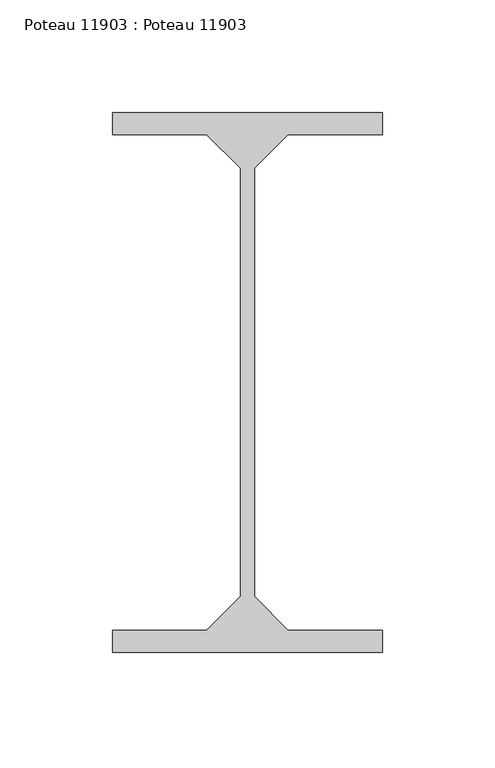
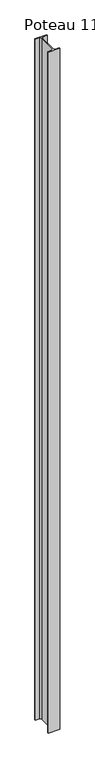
"""IFC4 building model written with IfcOpenShell, lengths in millimetres: beam geometry, Poteau 11903 : Poteau 11903."""

from ifc_helpers import new_model, si_unit, frame, origin, place, context, project, spatial, polyline, outline, extrude, source, transform, mapped, element, save


def poteau_11903_poteau_11903_66130c2d(model_context):
    return source(origin(), model_context, "Body", "SweptSolid", [
        extrude(outline(polyline([(7664.9999999, 95.0), (7664.9999999, 85.2), (7623.0999999, 85.2), (7608.0999999, 70.2), (7608.0999999, -120.2), (7623.0999999, -135.2), (7664.9999999, -135.2), (7664.9999999, -145.0), (7544.9999999, -145.0), (7544.9999999, -135.2), (7586.8999999, -135.2), (7601.8999999, -120.2), (7601.8999999, 70.2), (7586.8999999, 85.2), (7544.9999999, 85.2), (7544.9999999, 95.0), (7664.9999999, 95.0)])), frame((0.0, 0.0, -250.0), z_axis=(0.0, 0.0, 1.0), x_axis=(1.0, 0.0, 0.0)), (0.0, 0.0, 1.0), 7439.0759819),
    ])


if __name__ == "__main__":
    model = new_model("IFC4")
    model_context = context("Model", 3, world=origin())
    ifc_project = project(units=[si_unit("LENGTHUNIT", "METRE", prefix="MILLI")], contexts=[model_context])
    site = spatial("IfcSite", under=ifc_project)
    building = spatial("IfcBuilding", under=site)
    placement = place(None, origin())
    poteau_11903_poteau_11903_shape = poteau_11903_poteau_11903_66130c2d(model_context)
    element("IfcBeam", 1, ObjectType="Poteau 11903 : Poteau 11903", at=placement, inside=building, context=model_context, shape_type="MappedRepresentation", body=[
        mapped(poteau_11903_poteau_11903_shape, transform((0.0, 0.0, 0.0), x_axis=(1.0, 0.0, 0.0), y_axis=(0.0, 1.0, 0.0), z_axis=(0.0, 0.0, 1.0))),
    ])
    save(model, "model.ifc")
